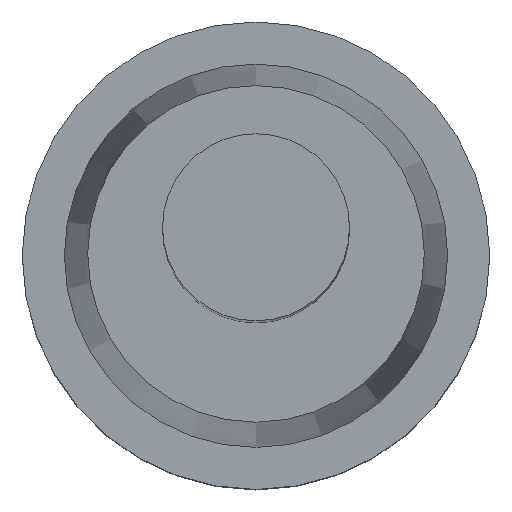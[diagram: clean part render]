
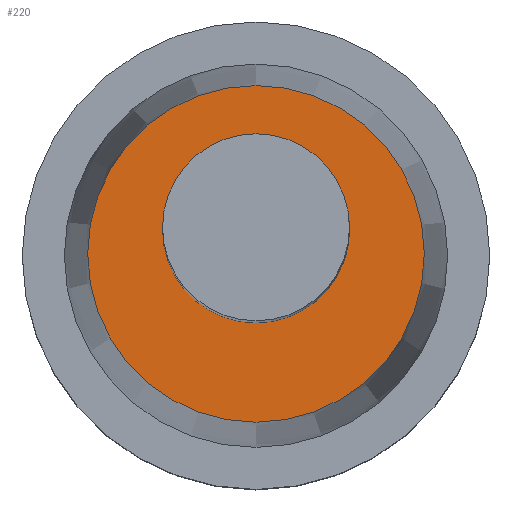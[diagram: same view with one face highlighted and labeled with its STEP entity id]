
A CAD part, top view. The second image highlights one B-rep face of the part: STEP entity #220.
In plain terms, the highlighted planar face has unit normal (0, 0, 1).
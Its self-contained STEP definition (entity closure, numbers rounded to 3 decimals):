
#18=FACE_BOUND('',#50,.T.);
#24=PLANE('',#262);
#34=FACE_OUTER_BOUND('',#49,.T.);
#49=EDGE_LOOP('',(#177,#178));
#50=EDGE_LOOP('',(#179,#180));
#66=CIRCLE('',#260,1.4);
#67=CIRCLE('',#261,1.4);
#68=CIRCLE('',#263,3.6);
#69=CIRCLE('',#264,3.6);
#105=VERTEX_POINT('',#421);
#106=VERTEX_POINT('',#422);
#107=VERTEX_POINT('',#427);
#108=VERTEX_POINT('',#428);
#131=EDGE_CURVE('',#105,#106,#66,.T.);
#132=EDGE_CURVE('',#106,#105,#67,.T.);
#134=EDGE_CURVE('',#107,#108,#68,.T.);
#135=EDGE_CURVE('',#108,#107,#69,.T.);
#177=ORIENTED_EDGE('',*,*,#134,.F.);
#178=ORIENTED_EDGE('',*,*,#135,.F.);
#179=ORIENTED_EDGE('',*,*,#131,.T.);
#180=ORIENTED_EDGE('',*,*,#132,.T.);
#220=ADVANCED_FACE('',(#34,#18),#24,.T.);
#260=AXIS2_PLACEMENT_3D('',#423,#311,#312);
#261=AXIS2_PLACEMENT_3D('',#424,#313,#314);
#262=AXIS2_PLACEMENT_3D('',#426,#316,#317);
#263=AXIS2_PLACEMENT_3D('',#429,#318,#319);
#264=AXIS2_PLACEMENT_3D('',#430,#320,#321);
#311=DIRECTION('center_axis',(0.,0.,-1.));
#312=DIRECTION('ref_axis',(1.,0.,0.));
#313=DIRECTION('center_axis',(0.,0.,-1.));
#314=DIRECTION('ref_axis',(1.,0.,0.));
#316=DIRECTION('center_axis',(0.,0.,1.));
#317=DIRECTION('ref_axis',(1.,0.,0.));
#318=DIRECTION('center_axis',(0.,0.,-1.));
#319=DIRECTION('ref_axis',(1.,0.,0.));
#320=DIRECTION('center_axis',(0.,0.,-1.));
#321=DIRECTION('ref_axis',(1.,0.,0.));
#421=CARTESIAN_POINT('',(0.,1.4,-94.368));
#422=CARTESIAN_POINT('',(0.,-1.4,-94.368));
#423=CARTESIAN_POINT('Origin',(0.,0.,-94.368));
#424=CARTESIAN_POINT('Origin',(0.,0.,-94.368));
#426=CARTESIAN_POINT('Origin',(0.,3.6,-94.368));
#427=CARTESIAN_POINT('',(0.,3.6,-94.368));
#428=CARTESIAN_POINT('',(0.,-3.6,-94.368));
#429=CARTESIAN_POINT('Origin',(0.,0.,-94.368));
#430=CARTESIAN_POINT('Origin',(0.,0.,-94.368));
